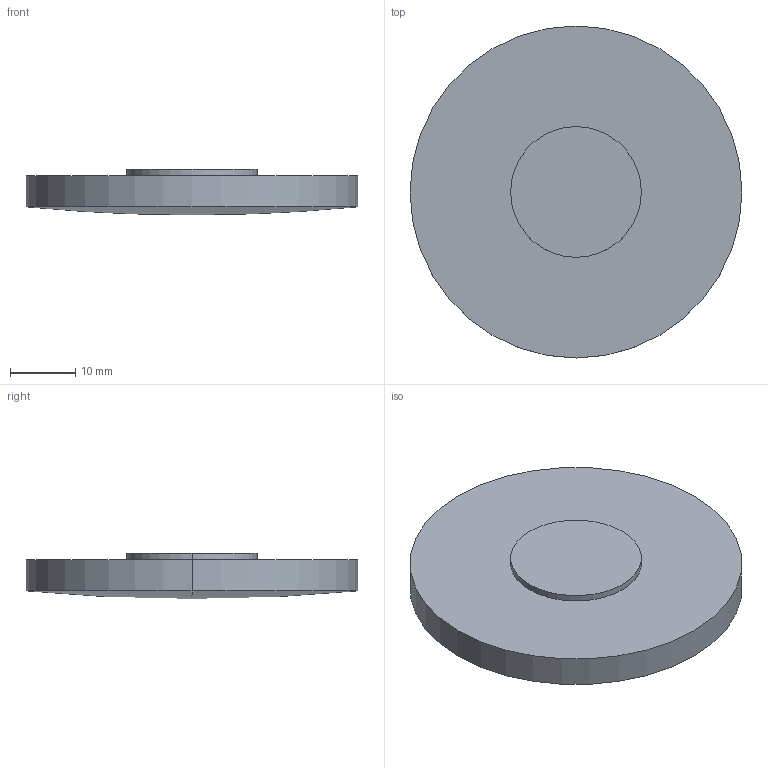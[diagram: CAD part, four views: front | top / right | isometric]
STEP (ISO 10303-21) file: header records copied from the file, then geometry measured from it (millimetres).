
FILE_DESCRIPTION(('STEP AP214'),'1');
FILE_NAME('LL-51-380.STEP','2020-03-09T17:41:17',(' '),(' '),'Spatial InterOp 3D',' ',' ');
FILE_SCHEMA(('AUTOMOTIVE_DESIGN { 1 0 10303 214 1 1 1 1 }'));
Length unit declared in the file: millimetre
Products named in the file (1): 1
Bounding box: 50.8 x 50.8 x 7 mm (x, y, z)
Volume: 11239.5 mm3; surface area: 5512.3 mm2
Topology: 2 solids, 2 shells, 9 faces, 16 edges, 9 vertices
Faces by surface type: cylinder 4, plane 3, sphere 2
Entity records: 229 total; most frequent: DIRECTION 46, CARTESIAN_POINT 34, ORIENTED_EDGE 28, AXIS2_PLACEMENT_3D 21, EDGE_CURVE 14, CIRCLE 10, ADVANCED_FACE 9, FACE_OUTER_BOUND 9
